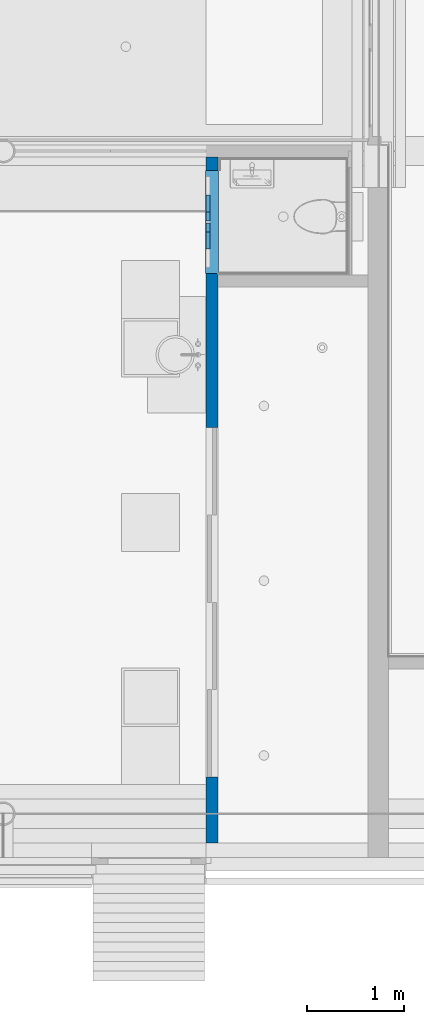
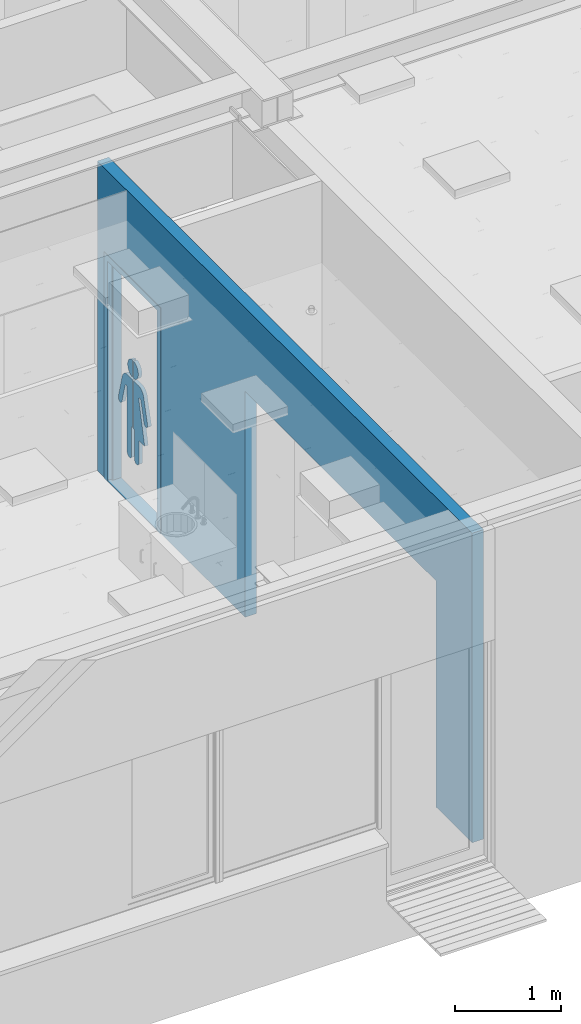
# One storey, part 43 of 347: 2 building element parts, 1 wall, 2 openings, 1 element without a shape of its own.
"""IFC2X3 building model written with IfcOpenShell, lengths in millimetres."""

from ifc_helpers import new_model, entity, si_unit, converted_unit, derived_unit, money_unit, direction, frame, origin_with_axes, place, context, subcontext, project, spatial, faceted_brep, source, transform, mapped, material, type_object, element, fill, aggregate, save


model = new_model("IFC2X3")

# Units and contexts
model_context = context("Model", 3, precision=0.01, world=origin_with_axes(), true_north=direction((0.0, 1.0)))
plan_context = context("Plan", 3, precision=0.01, world=origin_with_axes(), true_north=direction((0.0, 1.0)))
body_context = subcontext(model_context, "Body", "Model", "MODEL_VIEW")
ifc_project = project(units=[si_unit("LENGTHUNIT", "METRE", prefix="MILLI"), si_unit("AREAUNIT", "SQUARE_METRE"), si_unit("VOLUMEUNIT", "CUBIC_METRE"), converted_unit("PLANEANGLEUNIT", "DEGREE", entity("IfcPlaneAngleMeasure", 0.0174532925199), si_unit("PLANEANGLEUNIT", "RADIAN"), dimensions=[0, 0, 0, 0, 0, 0, 0]), money_unit("EUR"), converted_unit("TIMEUNIT", "Year", entity("IfcTimeMeasure", 31556926.0), si_unit("TIMEUNIT", "SECOND"), dimensions=[0, 0, 1, 0, 0, 0, 0]), si_unit("MASSUNIT", "GRAM", prefix="KILO"), si_unit("THERMODYNAMICTEMPERATUREUNIT", "DEGREE_CELSIUS"), si_unit("LUMINOUSINTENSITYUNIT", "LUMEN"), si_unit("ENERGYUNIT", "JOULE", prefix="MEGA"), derived_unit("THERMALCONDUCTANCEUNIT", [(si_unit("POWERUNIT", "WATT"), 1), (si_unit("LENGTHUNIT", "METRE"), -1), (si_unit("THERMODYNAMICTEMPERATUREUNIT", "KELVIN"), -1)]), derived_unit("SPECIFICHEATCAPACITYUNIT", [(si_unit("ENERGYUNIT", "JOULE"), 1), (si_unit("MASSUNIT", "GRAM", prefix="KILO"), -1), (si_unit("THERMODYNAMICTEMPERATUREUNIT", "KELVIN"), -1)]), derived_unit("MASSDENSITYUNIT", [(si_unit("MASSUNIT", "GRAM", prefix="KILO"), 1), (si_unit("VOLUMEUNIT", "CUBIC_METRE"), -1)])], contexts=[model_context, plan_context])

# Site, building, storey
site_placement = place(None, origin_with_axes())
site = spatial("IfcSite", under=ifc_project, at=site_placement, Name="Site", CompositionType="ELEMENT")
building_placement = place(site_placement, origin_with_axes())
building = spatial("IfcBuilding", under=site, at=building_placement, Name="Naam gebouw", CompositionType="ELEMENT")
storey_placement = place(building_placement, origin_with_axes())
storey = spatial("IfcBuildingStorey", under=building, at=storey_placement, Name="begane grond", CompositionType="ELEMENT", Elevation=0.0)

# Wall, openings, door, building element parts
ifc_material_1 = material(Name="ALG - LICHTE SCHEIDINGSWAND")
wall_type = type_object("IfcWallType", Name="ALG LSW 125 125", PredefinedType="NOTDEFINED")
wall_placement = place(storey_placement, frame((33825.0, 12125.0, 0.0), z_axis=(0.0, 0.0, 1.0), x_axis=(0.0, -1.0, 0.0)))
wall = element("IfcWall", 1, at=wall_placement, inside=storey, type_object=wall_type, material=ifc_material_1, Name="22_GF 125 ECO DGS/2.75.3A", context=body_context, shape_type="Brep", body=[
    faceted_brep([(6447.5, 125.0, 0.0), (6447.5, 125.0, 2600.0), (2847.5, 125.0, 2600.0), (2847.5, 125.0, 0.0), (1262.5, 125.0, 0.0), (1262.5, 125.0, 2600.0), (198.5, 125.0, 2600.0), (198.5, 125.0, 0.0), (62.5, 125.0, 0.0), (62.5, 125.0, 3560.0), (7125.00000245, 125.0, 3559.99997586), (7125.00000245, 125.0, 0.0), (6447.5, 0.0, 0.0), (6447.5, 0.0, 2600.0), (2847.5, 0.0, 2600.0), (2847.5, 0.0, 0.0), (1262.5, 0.0, 0.0), (1262.5, 0.0, 2600.0), (198.5, 0.0, 2600.0), (198.5, 0.0, 0.0), (62.5, 0.0, 0.0), (62.5, 0.0, 3560.0), (7125.00000221, 0.0, 3559.99997586), (7125.00000221, 0.0, 0.0)], [[[0, 1, 2, 3, 4, 5, 6, 7, 8, 9, 10, 11]], [[1, 0, 12, 13]], [[2, 1, 13, 14]], [[3, 2, 14, 15]], [[3, 15, 16, 4]], [[4, 16, 17, 5]], [[5, 17, 18, 6]], [[6, 18, 19, 7]], [[19, 20, 8, 7]], [[9, 8, 20, 21]], [[10, 9, 21, 22]], [[22, 23, 11, 10]], [[12, 0, 11, 23]], [[13, 12, 23, 22, 21, 20, 19, 18, 17, 16, 15, 14]]]),
])
opening_1_placement = place(wall_placement, frame((730.5, 0.0, 0.0), z_axis=(0.0, 0.0, 1.0), x_axis=(1.0, 0.0, 0.0)))
opening_1 = element("IfcOpeningElement", 2, at=opening_1_placement, cuts=wall, Name="32_02.05", context=body_context, shape_type="Brep", body=[
    faceted_brep([(-532.0, 125.0, 2600.0), (-532.0, 125.0, 0.0), (-532.0, -257.0, 0.0), (-532.0, -257.0, 2600.0), (532.0, 125.0, 2600.0), (532.0, 125.0, 0.0), (532.0, -257.0, 0.0), (532.0, -257.0, 2600.0)], [[[0, 1, 2, 3]], [[0, 4, 5, 1]], [[1, 5, 6, 2]], [[3, 2, 6, 7]], [[4, 0, 3, 7]], [[5, 4, 7, 6]]]),
])
opening_2_placement = place(wall_placement, frame((4647.5, 0.0, 0.0), z_axis=(0.0, 0.0, 1.0), x_axis=(1.0, 0.0, 0.0)))
element("IfcOpeningElement", 3, at=opening_2_placement, cuts=wall, Name="32_-", context=body_context, shape_type="Brep", body=[
    faceted_brep([(1800.0, 125.0, 0.0), (1800.0, 125.0, 2600.0), (1800.0, -250.0, 2600.0), (1800.0, -250.0, 0.0), (-1800.0, 125.0, 0.0), (-1800.0, 125.0, 2600.0), (-1800.0, -250.0, 2600.0), (-1800.0, -250.0, 0.0)], [[[0, 1, 2, 3]], [[0, 4, 5, 1]], [[1, 5, 6, 2]], [[3, 2, 6, 7]], [[4, 0, 3, 7]], [[5, 4, 7, 6]]]),
])
door_style = type_object("IfcDoorStyle", Name="D1 25", ConstructionType="NOTDEFINED", OperationType="SINGLE_SWING_RIGHT", ParameterTakesPrecedence=False, Sizeable=False)
door_placement = place(opening_1_placement, frame((532.0, 0.0, 0.0), z_axis=(0.0, 0.0, 1.0), x_axis=(-1.0, 0.0, 0.0)))
door = element("IfcDoor", 4, at=door_placement, inside=storey, type_object=door_style, Name="32_02.05", ObjectType="DOOR", OverallHeight=2600.0, OverallWidth=1064.0)
fill(opening_1, door)
shared_shape_1 = source(origin_with_axes(), body_context, "Body", "Brep", [
    faceted_brep([(-467.0, -40.0, 10.0), (-442.0, -40.0, 10.0), (-442.0, -139.0, 10.0), (442.0, -139.0, 10.0), (442.0, -40.0, 10.0), (467.0, -40.0, 10.0), (467.0, 0.0, 10.0), (-467.0, 0.0, 10.0), (-467.0, -40.0, 0.0), (-442.0, -40.0, 0.0), (-442.0, -139.0, 0.0), (442.0, -139.0, 0.0), (442.0, -40.0, 0.0), (467.0, -40.0, 0.0), (467.0, 0.0, 0.0), (-467.0, 0.0, 0.0)], [[[0, 1, 2, 3, 4, 5, 6, 7]], [[1, 0, 8, 9]], [[10, 2, 1, 9]], [[2, 10, 11, 3]], [[3, 11, 12, 4]], [[5, 4, 12, 13]], [[13, 14, 6, 5]], [[15, 7, 6, 14]], [[8, 0, 7, 15]], [[9, 8, 15, 14, 13, 12, 11, 10]]]),
    faceted_brep([(-442.0, -50.0, 0.0), (-442.0, -50.0, 2510.0), (-442.0, -139.0, 2510.0), (-442.0, -139.0, 0.0), (-467.0, -50.0, 2510.0), (-467.0, -50.0, 0.0), (-467.0, 0.0, 2510.0), (-532.0, 0.0, 2510.0), (-532.0, -139.0, 2510.0), (-532.0, -139.0, 0.0), (-532.0, 0.0, 0.0), (-467.0, 0.0, 0.0)], [[[0, 1, 2, 3]], [[4, 1, 0, 5]], [[4, 6, 7, 8, 2, 1]], [[3, 2, 8, 9]], [[5, 0, 3, 9, 10, 11]], [[6, 4, 5, 11]], [[6, 11, 10, 7]], [[10, 9, 8, 7]]]),
    faceted_brep([(467.0, -50.0, 2510.0), (442.0, -50.0, 2510.0), (442.0, -139.0, 2510.0), (532.0, -139.0, 2510.0), (532.0, 0.0, 2510.0), (467.0, 0.0, 2510.0), (467.0, -50.0, 0.0), (442.0, -50.0, 0.0), (442.0, -139.0, 0.0), (532.0, -139.0, 0.0), (532.0, 0.0, 0.0), (467.0, 0.0, 0.0)], [[[0, 1, 2, 3, 4, 5]], [[1, 0, 6, 7]], [[1, 7, 8, 2]], [[3, 2, 8, 9]], [[4, 3, 9, 10]], [[11, 5, 4, 10]], [[0, 5, 11, 6]], [[6, 11, 10, 9, 8, 7]]]),
    faceted_brep([(-467.0, 0.0, 2535.0), (-467.0, 0.0, 2510.0), (-532.0, 0.0, 2510.0), (-532.0, 0.0, 2600.0), (532.0, 0.0, 2600.0), (532.0, 0.0, 2510.0), (467.0, 0.0, 2510.0), (467.0, 0.0, 2535.0), (-467.0, -50.0, 2535.0), (-467.0, -50.0, 2510.0), (-442.0, -50.0, 2510.0), (-442.0, -139.0, 2510.0), (-532.0, -139.0, 2510.0), (-532.0, -139.0, 2600.0), (532.0, -139.0, 2600.0), (532.0, -139.0, 2510.0), (467.0, -50.0, 2510.0), (442.0, -139.0, 2510.0), (442.0, -50.0, 2510.0), (467.0, -50.0, 2535.0)], [[[0, 1, 2, 3, 4, 5, 6, 7]], [[1, 0, 8, 9]], [[9, 10, 11, 12, 2, 1]], [[2, 12, 13, 3]], [[3, 13, 14, 4]], [[4, 14, 15, 5]], [[16, 6, 5, 15, 17, 18]], [[7, 6, 16, 19]], [[0, 7, 19, 8]], [[16, 18, 10, 9, 8, 19]], [[10, 18, 17, 11]], [[17, 15, 14, 13, 12, 11]]]),
])
building_element_part_1_placement = place(door_placement, origin_with_axes())
building_element_part_1 = element("IfcBuildingElementPart", 5, at=building_element_part_1_placement, context=body_context, shape_type="MappedRepresentation", body=[
    mapped(shared_shape_1, transform((532.0, 7.0, 0.0))),
])
ifc_material_2 = material(Name="Glas sticker")
shared_shape_2 = source(origin_with_axes(), body_context, "Body", "Brep", [
    faceted_brep([(201.58891637, -10.0, 1368.954906), (201.58891637, -50.0, 1368.954906), (276.62552127, -50.0, 1088.44895872), (276.62552127, -10.0, 1088.44895872), (195.949154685, -10.0, 1385.59511164), (195.949154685, -50.0, 1385.59511164), (187.162658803, -50.0, 1400.83915132), (175.866957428, -50.0, 1414.32329606), (162.405264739, -50.0, 1425.63783693), (147.186607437, -50.0, 1434.43898735), (130.673396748, -50.0, 1440.4593288), (113.367378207, -50.0, 1443.51593625), (104.580882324, -50.0, 1443.51593625), (10.0430200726, -50.0, 1443.51593625), (10.0430200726, -50.0, 890.229090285), (25.1075218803, -50.0, 890.229090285), (25.1075218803, -50.0, 563.286854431), (24.6932816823, -50.0, 557.54197595), (25.5217620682, -50.0, 550.06099695), (27.6345513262, -50.0, 542.8377749), (30.9674534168, -50.0, 536.091783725), (35.4191998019, -50.0, 530.027996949), (40.8545264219, -50.0, 524.830659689), (47.1082836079, -50.0, 520.657690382), (53.9904541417, -50.0, 517.635882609), (61.2919267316, -50.0, 515.857052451), (68.790849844, -50.0, 515.375248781), (76.2593724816, -50.0, 516.205110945), (83.4705673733, -50.0, 518.321424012), (90.2053260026, -50.0, 521.659884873), (96.2590161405, -50.0, 526.119056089), (101.447699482, -50.0, 531.563447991), (105.613720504, -50.0, 537.827635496), (108.630496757, -50.0, 544.721284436), (110.406365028, -50.0, 552.034934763), (110.887366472, -50.0, 559.546364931), (110.473126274, -50.0, 563.286854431), (110.473126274, -50.0, 1292.61952191), (110.695072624, -50.0, 1294.3081838), (111.717711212, -50.0, 1297.5569887), (113.288023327, -50.0, 1300.57856146), (115.358295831, -50.0, 1303.2810931), (117.865624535, -50.0, 1305.58246859), (120.733825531, -50.0, 1307.41276178), (123.875749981, -50.0, 1308.71636013), (127.195932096, -50.0, 1309.45365449), (130.593489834, -50.0, 1309.60224253), (133.965190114, -50.0, 1309.15760948), (137.208585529, -50.0, 1308.13326528), (140.225127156, -50.0, 1306.56033414), (142.923158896, -50.0, 1304.48660874), (145.220702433, -50.0, 1301.97509819), (147.047948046, -50.0, 1299.10211348), (148.349375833, -50.0, 1295.95494878), (149.011836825, -50.0, 1292.61952191), (207.923578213, -50.0, 1073.19870026), (208.722214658, -50.0, 1070.21469297), (211.322258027, -50.0, 1064.63143877), (214.850708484, -50.0, 1059.58525256), (219.200355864, -50.0, 1055.22946015), (224.239038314, -50.0, 1051.6964101), (229.813658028, -50.0, 1049.09345233), (235.754833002, -50.0, 1047.49967641), (241.882043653, -50.0, 1046.96350842), (248.009117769, -50.0, 1047.50123953), (253.949887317, -50.0, 1049.09653107), (259.523845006, -50.0, 1051.70091091), (264.561628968, -50.0, 1055.23524628), (268.910168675, -50.0, 1059.59214821), (272.437335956, -50.0, 1064.63923441), (275.035959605, -50.0, 1070.22315174), (276.627081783, -50.0, 1076.17423568), (277.162357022, -50.0, 1082.31166558), (277.162357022, -10.0, 1082.31166558), (276.627081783, -10.0, 1076.17423568), (275.035959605, -10.0, 1070.22315174), (272.437335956, -10.0, 1064.63923441), (268.910168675, -10.0, 1059.59214821), (264.561628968, -10.0, 1055.23524628), (259.523845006, -10.0, 1051.70091091), (253.949887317, -10.0, 1049.09653107), (248.009117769, -10.0, 1047.50123953), (241.882043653, -10.0, 1046.96350842), (235.754833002, -10.0, 1047.49967641), (229.813658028, -10.0, 1049.09345233), (224.239038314, -10.0, 1051.6964101), (219.200355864, -10.0, 1055.22946015), (214.850708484, -10.0, 1059.58525256), (211.322258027, -10.0, 1064.63143877), (208.722214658, -10.0, 1070.21469297), (207.923578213, -10.0, 1073.19870026), (149.011836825, -10.0, 1292.61952191), (148.349375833, -10.0, 1295.95494878), (147.047948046, -10.0, 1299.10211348), (145.220702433, -10.0, 1301.97509819), (142.923158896, -10.0, 1304.48660874), (140.225127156, -10.0, 1306.56033414), (137.208585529, -10.0, 1308.13326528), (133.965190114, -10.0, 1309.15760948), (130.593489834, -10.0, 1309.60224253), (127.195932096, -10.0, 1309.45365449), (123.875749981, -10.0, 1308.71636013), (120.733825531, -10.0, 1307.41276178), (117.865624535, -10.0, 1305.58246859), (115.358295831, -10.0, 1303.2810931), (113.288023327, -10.0, 1300.57856146), (111.717711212, -10.0, 1297.5569887), (110.695072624, -10.0, 1294.3081838), (110.473126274, -10.0, 1292.61952191), (110.473126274, -10.0, 563.286854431), (110.887366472, -10.0, 559.546364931), (110.406365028, -10.0, 552.034934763), (108.630496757, -10.0, 544.721284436), (105.613720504, -10.0, 537.827635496), (101.447699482, -10.0, 531.563447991), (96.2590161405, -10.0, 526.119056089), (90.2053260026, -10.0, 521.659884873), (83.4705673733, -10.0, 518.321424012), (76.2593724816, -10.0, 516.205110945), (68.790849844, -10.0, 515.375248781), (61.2919267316, -10.0, 515.857052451), (53.9904541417, -10.0, 517.635882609), (47.1082836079, -10.0, 520.657690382), (40.8545264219, -10.0, 524.830659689), (35.4191998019, -10.0, 530.027996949), (30.9674534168, -10.0, 536.091783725), (27.6345513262, -10.0, 542.8377749), (25.5217620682, -10.0, 550.06099695), (24.6932816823, -10.0, 557.54197595), (25.1075218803, -10.0, 563.286854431), (25.1075218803, -10.0, 890.229090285), (10.0430200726, -10.0, 890.229090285), (10.0430200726, -10.0, 1443.51593625), (104.580882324, -10.0, 1443.51593625), (113.367378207, -10.0, 1443.51593625), (130.673396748, -10.0, 1440.4593288), (147.186607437, -10.0, 1434.43898735), (162.405264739, -10.0, 1425.63783693), (175.866957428, -10.0, 1414.32329606), (187.162658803, -10.0, 1400.83915132)], [[[0, 1, 2, 3]], [[4, 5, 1, 0]], [[1, 5, 6, 7, 8, 9, 10, 11, 12, 13, 14, 15, 16, 17, 18, 19, 20, 21, 22, 23, 24, 25, 26, 27, 28, 29, 30, 31, 32, 33, 34, 35, 36, 37, 38, 39, 40, 41, 42, 43, 44, 45, 46, 47, 48, 49, 50, 51, 52, 53, 54, 55, 56, 57, 58, 59, 60, 61, 62, 63, 64, 65, 66, 67, 68, 69, 70, 71, 72, 2]], [[3, 2, 72, 73]], [[0, 3, 73, 74, 75, 76, 77, 78, 79, 80, 81, 82, 83, 84, 85, 86, 87, 88, 89, 90, 91, 92, 93, 94, 95, 96, 97, 98, 99, 100, 101, 102, 103, 104, 105, 106, 107, 108, 109, 110, 111, 112, 113, 114, 115, 116, 117, 118, 119, 120, 121, 122, 123, 124, 125, 126, 127, 128, 129, 130, 131, 132, 133, 134, 135, 136, 137, 138, 139, 4]], [[139, 6, 5, 4]], [[138, 7, 6, 139]], [[137, 8, 7, 138]], [[136, 9, 8, 137]], [[135, 10, 9, 136]], [[134, 11, 10, 135]], [[133, 12, 11, 134]], [[132, 13, 12, 133]], [[131, 14, 13, 132]], [[130, 15, 14, 131]], [[129, 16, 15, 130]], [[128, 17, 16, 129]], [[127, 18, 17, 128]], [[126, 19, 18, 127]], [[125, 20, 19, 126]], [[124, 21, 20, 125]], [[123, 22, 21, 124]], [[122, 23, 22, 123]], [[121, 24, 23, 122]], [[120, 25, 24, 121]], [[119, 26, 25, 120]], [[118, 27, 26, 119]], [[117, 28, 27, 118]], [[116, 29, 28, 117]], [[115, 30, 29, 116]], [[114, 31, 30, 115]], [[113, 32, 31, 114]], [[112, 33, 32, 113]], [[111, 34, 33, 112]], [[110, 35, 34, 111]], [[109, 36, 35, 110]], [[108, 37, 36, 109]], [[107, 38, 37, 108]], [[106, 39, 38, 107]], [[105, 40, 39, 106]], [[104, 41, 40, 105]], [[103, 42, 41, 104]], [[102, 43, 42, 103]], [[101, 44, 43, 102]], [[100, 45, 44, 101]], [[99, 46, 45, 100]], [[98, 47, 46, 99]], [[97, 48, 47, 98]], [[96, 49, 48, 97]], [[95, 50, 49, 96]], [[94, 51, 50, 95]], [[93, 52, 51, 94]], [[92, 53, 52, 93]], [[91, 54, 53, 92]], [[90, 55, 54, 91]], [[89, 56, 55, 90]], [[88, 57, 56, 89]], [[87, 58, 57, 88]], [[86, 59, 58, 87]], [[85, 60, 59, 86]], [[84, 61, 60, 85]], [[83, 62, 61, 84]], [[82, 63, 62, 83]], [[81, 64, 63, 82]], [[80, 65, 64, 81]], [[79, 66, 65, 80]], [[78, 67, 66, 79]], [[77, 68, 67, 78]], [[76, 69, 68, 77]], [[75, 70, 69, 76]], [[74, 71, 70, 75]], [[73, 72, 71, 74]]]),
    faceted_brep([(-10.0430200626, -10.0, 890.229090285), (-10.0430200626, -50.0, 890.229090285), (-25.1075218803, -50.0, 890.229090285), (-25.1075218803, -10.0, 890.229090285), (-10.0430200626, -10.0, 1443.51593625), (-10.0430200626, -50.0, 1443.51593625), (-104.580882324, -50.0, 1443.51593625), (-122.087001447, -50.0, 1442.36606156), (-139.061208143, -50.0, 1437.81025123), (-154.98774758, -50.0, 1430.37119778), (-169.382699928, -50.0, 1420.27493311), (-181.808681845, -50.0, 1407.82822709), (-191.888136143, -50.0, 1393.40926659), (-199.31480372, -50.0, 1377.45616444), (-201.58891637, -50.0, 1368.954906), (-275.831520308, -50.0, 1091.41563724), (-276.62708117, -50.0, 1088.44009521), (-277.162355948, -50.0, 1082.30266527), (-276.625519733, -50.0, 1076.16537218), (-275.032884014, -50.0, 1070.21469446), (-272.432840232, -50.0, 1064.63144045), (-268.904389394, -50.0, 1059.58525451), (-264.554741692, -50.0, 1055.22946244), (-259.516058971, -50.0, 1051.69641276), (-253.941439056, -50.0, 1049.09345542), (-248.000263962, -50.0, 1047.49967995), (-241.873053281, -50.0, 1046.96351241), (-235.745979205, -50.0, 1047.50124399), (-229.805209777, -50.0, 1049.09653598), (-224.231252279, -50.0, 1051.70091623), (-219.193468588, -50.0, 1055.235252), (-214.844929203, -50.0, 1059.59215425), (-211.317762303, -50.0, 1064.63924071), (-208.719139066, -50.0, 1070.22315824), (-207.923578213, -50.0, 1073.19870027), (-149.227842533, -50.0, 1292.61952191), (-149.003554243, -50.0, 1294.42542469), (-147.935653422, -50.0, 1297.90433437), (-146.280875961, -50.0, 1301.14464328), (-144.089501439, -50.0, 1304.04789628), (-141.428113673, -50.0, 1306.52587948), (-138.377577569, -50.0, 1308.50330061), (-135.030582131, -50.0, 1309.92007677), (-131.488824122, -50.0, 1310.73315989), (-127.859918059, -50.0, 1310.91784487), (-124.254126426, -50.0, 1310.46852015), (-120.781009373, -50.0, 1309.39883823), (-117.546095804, -50.0, 1307.74130085), (-114.647676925, -50.0, 1305.54627145), (-112.173819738, -50.0, 1302.8804449), (-110.199691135, -50.0, 1299.82482097), (-108.785274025, -50.0, 1296.47224326), (-108.013455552, -50.0, 1292.61952191), (-219.866038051, -50.0, 814.780876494), (-110.473126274, -50.0, 814.780876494), (-110.473126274, -50.0, 563.286854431), (-110.887366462, -50.0, 557.54197595), (-110.058886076, -50.0, 550.06099695), (-107.946096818, -50.0, 542.8377749), (-104.613194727, -50.0, 536.091783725), (-100.161448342, -50.0, 530.027996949), (-94.7261217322, -50.0, 524.830659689), (-88.4723645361, -50.0, 520.657690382), (-81.5901940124, -50.0, 517.635882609), (-74.2887214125, -50.0, 515.857052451), (-66.7897983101, -50.0, 515.375248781), (-59.3212756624, -50.0, 516.205110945), (-52.1100807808, -50.0, 518.321424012), (-45.3753221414, -50.0, 521.659884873), (-39.3216320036, -50.0, 526.119056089), (-34.1329486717, -50.0, 531.563447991), (-29.9669276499, -50.0, 537.827635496), (-26.9501513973, -50.0, 544.721284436), (-25.1742831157, -50.0, 552.034934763), (-24.6932816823, -50.0, 559.546364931), (-25.1075218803, -50.0, 563.286854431), (-25.1075218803, -10.0, 563.286854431), (-24.6932816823, -10.0, 559.546364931), (-25.1742831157, -10.0, 552.034934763), (-26.9501513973, -10.0, 544.721284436), (-29.9669276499, -10.0, 537.827635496), (-34.1329486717, -10.0, 531.563447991), (-39.3216320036, -10.0, 526.119056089), (-45.3753221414, -10.0, 521.659884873), (-52.1100807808, -10.0, 518.321424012), (-59.3212756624, -10.0, 516.205110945), (-66.7897983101, -10.0, 515.375248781), (-74.2887214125, -10.0, 515.857052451), (-81.5901940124, -10.0, 517.635882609), (-88.4723645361, -10.0, 520.657690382), (-94.7261217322, -10.0, 524.830659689), (-100.161448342, -10.0, 530.027996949), (-104.613194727, -10.0, 536.091783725), (-107.946096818, -10.0, 542.8377749), (-110.058886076, -10.0, 550.06099695), (-110.887366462, -10.0, 557.54197595), (-110.473126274, -10.0, 563.286854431), (-110.473126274, -10.0, 814.780876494), (-219.866038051, -10.0, 814.780876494), (-108.013455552, -10.0, 1292.61952191), (-108.785274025, -10.0, 1296.47224326), (-110.199691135, -10.0, 1299.82482097), (-112.173819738, -10.0, 1302.8804449), (-114.647676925, -10.0, 1305.54627145), (-117.546095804, -10.0, 1307.74130085), (-120.781009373, -10.0, 1309.39883823), (-124.254126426, -10.0, 1310.46852015), (-127.859918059, -10.0, 1310.91784487), (-131.488824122, -10.0, 1310.73315989), (-135.030582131, -10.0, 1309.92007677), (-138.377577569, -10.0, 1308.50330061), (-141.428113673, -10.0, 1306.52587948), (-144.089501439, -10.0, 1304.04789628), (-146.280875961, -10.0, 1301.14464328), (-147.935653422, -10.0, 1297.90433437), (-149.003554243, -10.0, 1294.42542469), (-149.227842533, -10.0, 1292.61952191), (-207.923578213, -10.0, 1073.19870027), (-208.719139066, -10.0, 1070.22315824), (-211.317762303, -10.0, 1064.63924071), (-214.844929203, -10.0, 1059.59215425), (-219.193468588, -10.0, 1055.235252), (-224.231252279, -10.0, 1051.70091623), (-229.805209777, -10.0, 1049.09653598), (-235.745979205, -10.0, 1047.50124399), (-241.873053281, -10.0, 1046.96351241), (-248.000263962, -10.0, 1047.49967995), (-253.941439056, -10.0, 1049.09345542), (-259.516058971, -10.0, 1051.69641276), (-264.554741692, -10.0, 1055.22946244), (-268.904389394, -10.0, 1059.58525451), (-272.432840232, -10.0, 1064.63144045), (-275.032884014, -10.0, 1070.21469446), (-276.625519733, -10.0, 1076.16537218), (-277.162355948, -10.0, 1082.30266527), (-276.62708117, -10.0, 1088.44009521), (-275.831520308, -10.0, 1091.41563724), (-201.58891637, -10.0, 1368.954906), (-199.31480372, -10.0, 1377.45616444), (-191.888136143, -10.0, 1393.40926659), (-181.808681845, -10.0, 1407.82822709), (-169.382699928, -10.0, 1420.27493311), (-154.98774758, -10.0, 1430.37119778), (-139.061208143, -10.0, 1437.81025123), (-122.087001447, -10.0, 1442.36606156), (-104.580882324, -10.0, 1443.51593625)], [[[0, 1, 2, 3]], [[4, 5, 1, 0]], [[1, 5, 6, 7, 8, 9, 10, 11, 12, 13, 14, 15, 16, 17, 18, 19, 20, 21, 22, 23, 24, 25, 26, 27, 28, 29, 30, 31, 32, 33, 34, 35, 36, 37, 38, 39, 40, 41, 42, 43, 44, 45, 46, 47, 48, 49, 50, 51, 52, 53, 54, 55, 56, 57, 58, 59, 60, 61, 62, 63, 64, 65, 66, 67, 68, 69, 70, 71, 72, 73, 74, 75, 2]], [[3, 2, 75, 76]], [[0, 3, 76, 77, 78, 79, 80, 81, 82, 83, 84, 85, 86, 87, 88, 89, 90, 91, 92, 93, 94, 95, 96, 97, 98, 99, 100, 101, 102, 103, 104, 105, 106, 107, 108, 109, 110, 111, 112, 113, 114, 115, 116, 117, 118, 119, 120, 121, 122, 123, 124, 125, 126, 127, 128, 129, 130, 131, 132, 133, 134, 135, 136, 137, 138, 139, 140, 141, 142, 143, 144, 145, 4]], [[145, 6, 5, 4]], [[144, 7, 6, 145]], [[143, 8, 7, 144]], [[142, 9, 8, 143]], [[141, 10, 9, 142]], [[140, 11, 10, 141]], [[139, 12, 11, 140]], [[138, 13, 12, 139]], [[137, 14, 13, 138]], [[136, 15, 14, 137]], [[135, 16, 15, 136]], [[134, 17, 16, 135]], [[133, 18, 17, 134]], [[132, 19, 18, 133]], [[131, 20, 19, 132]], [[130, 21, 20, 131]], [[129, 22, 21, 130]], [[128, 23, 22, 129]], [[127, 24, 23, 128]], [[126, 25, 24, 127]], [[125, 26, 25, 126]], [[124, 27, 26, 125]], [[123, 28, 27, 124]], [[122, 29, 28, 123]], [[121, 30, 29, 122]], [[120, 31, 30, 121]], [[119, 32, 31, 120]], [[118, 33, 32, 119]], [[117, 34, 33, 118]], [[116, 35, 34, 117]], [[115, 36, 35, 116]], [[114, 37, 36, 115]], [[113, 38, 37, 114]], [[112, 39, 38, 113]], [[111, 40, 39, 112]], [[110, 41, 40, 111]], [[109, 42, 41, 110]], [[108, 43, 42, 109]], [[107, 44, 43, 108]], [[106, 45, 44, 107]], [[105, 46, 45, 106]], [[104, 47, 46, 105]], [[103, 48, 47, 104]], [[102, 49, 48, 103]], [[101, 50, 49, 102]], [[100, 51, 50, 101]], [[99, 52, 51, 100]], [[98, 53, 52, 99]], [[97, 54, 53, 98]], [[96, 55, 54, 97]], [[95, 56, 55, 96]], [[94, 57, 56, 95]], [[93, 58, 57, 94]], [[92, 59, 58, 93]], [[91, 60, 59, 92]], [[90, 61, 60, 91]], [[89, 62, 61, 90]], [[88, 63, 62, 89]], [[87, 64, 63, 88]], [[86, 65, 64, 87]], [[85, 66, 65, 86]], [[84, 67, 66, 85]], [[83, 68, 67, 84]], [[82, 69, 68, 83]], [[81, 70, 69, 82]], [[80, 71, 70, 81]], [[79, 72, 71, 80]], [[78, 73, 72, 79]], [[77, 74, 73, 78]], [[76, 75, 74, 77]]]),
    faceted_brep([(-10.0430200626, -10.0, 1669.35630499), (-10.0430200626, -50.0, 1669.35630499), (-10.0430200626, -50.0, 1469.16959144), (-10.0430200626, -10.0, 1469.16959144), (-26.0925144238, -10.0, 1666.80395031), (-26.0925144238, -50.0, 1666.80395031), (-42.6057251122, -50.0, 1660.78360886), (-57.8243824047, -50.0, 1651.98245845), (-71.2860751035, -50.0, 1640.66791757), (-82.5817764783, -50.0, 1627.18377283), (-91.368272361, -50.0, 1611.93973315), (-97.3785895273, -50.0, 1595.39898096), (-100.430107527, -50.0, 1578.06409863), (-100.430107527, -50.0, 1569.26294821), (-99.4997261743, -50.0, 1553.01203348), (-95.1708587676, -50.0, 1535.9521583), (-87.9502729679, -50.0, 1519.90441461), (-78.0573626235, -50.0, 1505.35640498), (-65.7927188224, -50.0, 1492.75016333), (-51.5289965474, -50.0, 1482.46872393), (-35.6995917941, -50.0, 1474.82448312), (-18.7854730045, -50.0, 1470.04970729), (-18.7854730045, -10.0, 1470.04970729), (-35.6995917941, -10.0, 1474.82448312), (-51.5289965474, -10.0, 1482.46872393), (-65.7927188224, -10.0, 1492.75016333), (-78.0573626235, -10.0, 1505.35640498), (-87.9502729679, -10.0, 1519.90441461), (-95.1708587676, -10.0, 1535.9521583), (-99.4997261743, -10.0, 1553.01203348), (-100.430107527, -10.0, 1569.26294821), (-100.430107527, -10.0, 1578.06409863), (-97.3785895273, -10.0, 1595.39898096), (-91.368272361, -10.0, 1611.93973315), (-82.5817764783, -10.0, 1627.18377283), (-71.2860751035, -10.0, 1640.66791757), (-57.8243824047, -10.0, 1651.98245845), (-42.6057251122, -10.0, 1660.78360886)], [[[0, 1, 2, 3]], [[4, 5, 1, 0]], [[1, 5, 6, 7, 8, 9, 10, 11, 12, 13, 14, 15, 16, 17, 18, 19, 20, 21, 2]], [[3, 2, 21, 22]], [[0, 3, 22, 23, 24, 25, 26, 27, 28, 29, 30, 31, 32, 33, 34, 35, 36, 37, 4]], [[37, 6, 5, 4]], [[36, 7, 6, 37]], [[35, 8, 7, 36]], [[34, 9, 8, 35]], [[33, 10, 9, 34]], [[32, 11, 10, 33]], [[31, 12, 11, 32]], [[30, 13, 12, 31]], [[29, 14, 13, 30]], [[28, 15, 14, 29]], [[27, 16, 15, 28]], [[26, 17, 16, 27]], [[25, 18, 17, 26]], [[24, 19, 18, 25]], [[23, 20, 19, 24]], [[22, 21, 20, 23]]]),
    faceted_brep([(10.0430200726, -10.0, 1669.35630499), (10.0430200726, -50.0, 1669.35630499), (18.7854730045, -50.0, 1668.47618914), (18.7854730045, -10.0, 1668.47618914), (10.0430200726, -10.0, 1469.16959144), (10.0430200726, -50.0, 1469.16959144), (26.0925144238, -50.0, 1471.72194611), (42.6057251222, -50.0, 1477.74228756), (57.8243824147, -50.0, 1486.54343798), (71.2860751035, -50.0, 1497.85797885), (82.5817764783, -50.0, 1511.34212359), (91.368272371, -50.0, 1526.58616327), (97.3785895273, -50.0, 1543.12691547), (100.430107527, -50.0, 1560.4617978), (100.430107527, -50.0, 1569.26294821), (99.4997261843, -50.0, 1585.51386294), (95.1708587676, -50.0, 1602.57373813), (87.9502729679, -50.0, 1618.62148182), (78.0573626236, -50.0, 1633.16949145), (65.7927188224, -50.0, 1645.77573309), (51.5289965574, -50.0, 1656.05717249), (35.6995917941, -50.0, 1663.7014133), (35.6995917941, -10.0, 1663.7014133), (51.5289965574, -10.0, 1656.05717249), (65.7927188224, -10.0, 1645.77573309), (78.0573626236, -10.0, 1633.16949145), (87.9502729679, -10.0, 1618.62148182), (95.1708587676, -10.0, 1602.57373813), (99.4997261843, -10.0, 1585.51386294), (100.430107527, -10.0, 1569.26294821), (100.430107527, -10.0, 1560.4617978), (97.3785895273, -10.0, 1543.12691547), (91.368272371, -10.0, 1526.58616327), (82.5817764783, -10.0, 1511.34212359), (71.2860751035, -10.0, 1497.85797885), (57.8243824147, -10.0, 1486.54343798), (42.6057251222, -10.0, 1477.74228756), (26.0925144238, -10.0, 1471.72194611)], [[[0, 1, 2, 3]], [[4, 5, 1, 0]], [[1, 5, 6, 7, 8, 9, 10, 11, 12, 13, 14, 15, 16, 17, 18, 19, 20, 21, 2]], [[3, 2, 21, 22]], [[0, 3, 22, 23, 24, 25, 26, 27, 28, 29, 30, 31, 32, 33, 34, 35, 36, 37, 4]], [[37, 6, 5, 4]], [[36, 7, 6, 37]], [[35, 8, 7, 36]], [[34, 9, 8, 35]], [[33, 10, 9, 34]], [[32, 11, 10, 33]], [[31, 12, 11, 32]], [[30, 13, 12, 31]], [[29, 14, 13, 30]], [[28, 15, 14, 29]], [[27, 16, 15, 28]], [[26, 17, 16, 27]], [[25, 18, 17, 26]], [[24, 19, 18, 25]], [[23, 20, 19, 24]], [[22, 21, 20, 23]]]),
])
building_element_part_2_placement = place(door_placement, origin_with_axes())
building_element_part_2 = element("IfcBuildingElementPart", 6, at=building_element_part_2_placement, material=ifc_material_2, Name="Glas sticker", context=body_context, shape_type="MappedRepresentation", body=[
    mapped(shared_shape_2, transform((532.0, 7.0, 0.0))),
])
aggregate(door, [building_element_part_1, building_element_part_2])

save(model, "model.ifc")
